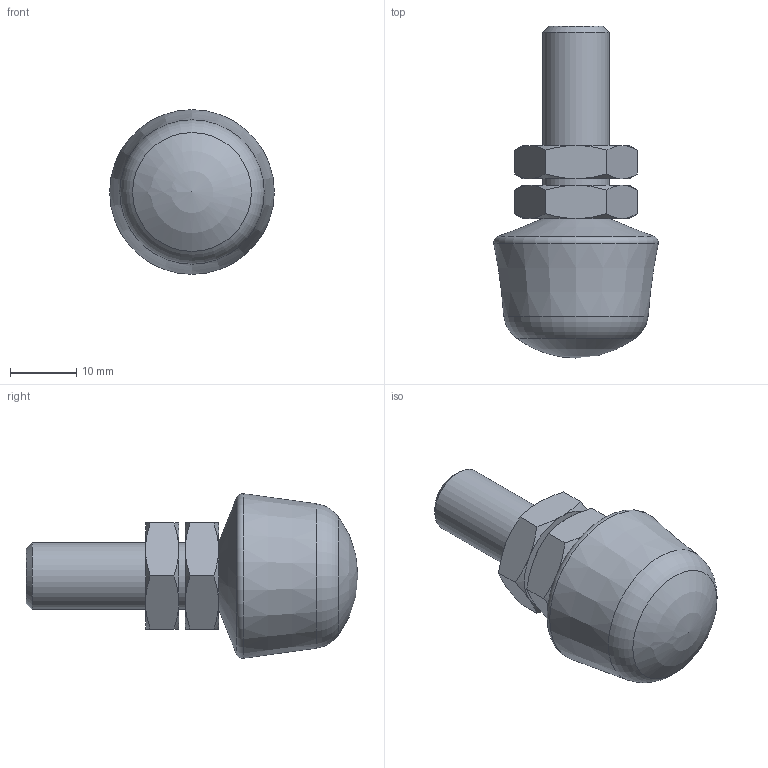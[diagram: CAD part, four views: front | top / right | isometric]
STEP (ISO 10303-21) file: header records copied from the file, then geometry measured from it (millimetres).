
FILE_DESCRIPTION( ( 'STEP AP203' ), '1' );
FILE_NAME( 'C:/Temp/Ganter_Step_05_03_2020/data/2_4/gn_708_1/gn_708_1_ni/Stainless Steel-Clamping bolt GN 708.1-M10-50-B-NI (0).stp', '2020-03-13T05:51:25', ( 'License CC BY-ND 4.0' ), ( 'CADENAS' ), ' ', 'PARTsolutions', ' ' );
FILE_SCHEMA( ( 'CONFIG_CONTROL_DESIGN' ) );
Length unit declared in the file: millimetre
Products named in the file (3): Stainless Steel-Clamping bolt GN 708.1-M10-50-B-NI (0); _Edelstahl-Andrueckschraube GN 708.1-M10-50-B-NI (0)-1; _Edelstahl-Andrueckschraube GN 708.1-M10-50-B-NI-2
Assembly tree (3 placements, depth 2):
  Stainless Steel-Clamping bolt GN 708.1-M10-50-B-NI (0)
    _Edelstahl-Andrueckschraube GN 708.1-M10-50-B-NI (0)-1
    _Edelstahl-Andrueckschraube GN 708.1-M10-50-B-NI-2  x2
Bounding box: 24.8 x 50 x 24.8 mm (x, y, z)
Volume: 11145.8 mm3; surface area: 4190.9 mm2
Topology: 3 solids, 3 shells, 54 faces, 114 edges, 65 vertices
Faces by surface type: cone 31, plane 17, cylinder 3, torus 2, sphere 1
Full cylindrical faces by diameter (mm): 8.376 x2, 10 x1
Entity records: 958 total; most frequent: CARTESIAN_POINT 261, DIRECTION 122, ORIENTED_EDGE 106, AXIS2_PLACEMENT_3D 58, EDGE_CURVE 53, EDGE_LOOP 42, VERTEX_POINT 37, FACE_OUTER_BOUND 35
